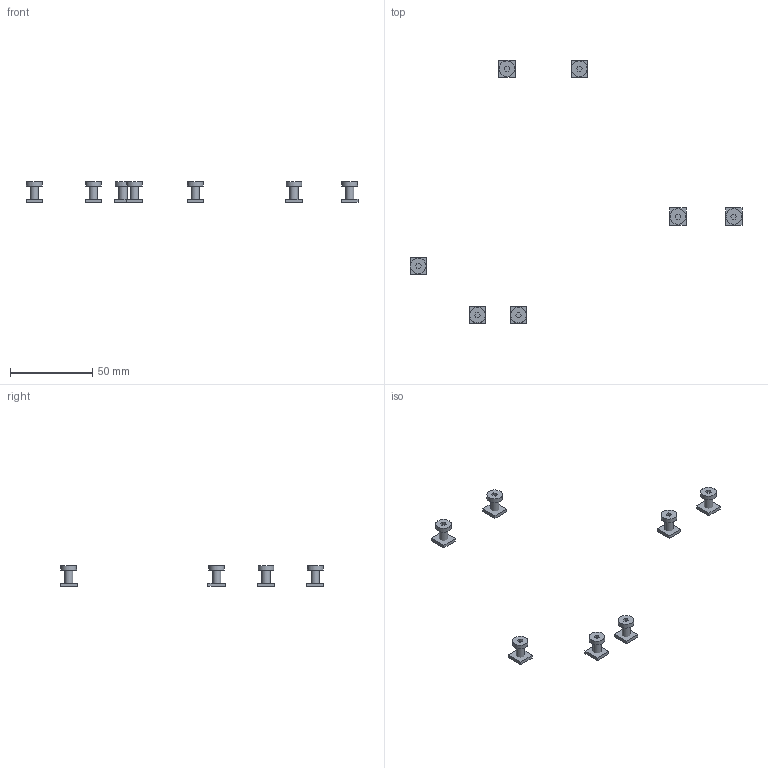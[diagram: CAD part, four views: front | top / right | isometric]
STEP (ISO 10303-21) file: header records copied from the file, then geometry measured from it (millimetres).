
FILE_DESCRIPTION(/* description */ (''),/* implementation_level */ '2;1');
FILE_NAME(/* name */ 'holder-hardware.step',/* time_stamp */ '2026-11-22T21:41:43+02:00',/* author */ (''),/* organization */ (''),/* preprocessor_version */ 'ST-DEVELOPER v20.2',/* originating_system */ 'Autodesk Translation Framework v15.17.0.0',/* authorisation */ '');
FILE_SCHEMA (('AUTOMOTIVE_DESIGN { 1 0 10303 214 3 1 1 }'));
Length unit declared in the file: millimetre
Products named in the file (1): 2026-11-22-21-41-43-585
Bounding box: 202 x 160.6 x 12.75 mm (x, y, z)
Volume: 4135.6 mm3; surface area: 4843.6 mm2
Topology: 14 solids, 14 shells, 126 faces, 252 edges, 168 vertices
Faces by surface type: plane 112, cylinder 14
Full cylindrical faces by diameter (mm): 5 x7, 9.5 x7
Entity records: 3258 total; most frequent: CARTESIAN_POINT 547, DIRECTION 534, ORIENTED_EDGE 504, EDGE_CURVE 252, LINE 224, VECTOR 224, VERTEX_POINT 168, AXIS2_PLACEMENT_3D 155
